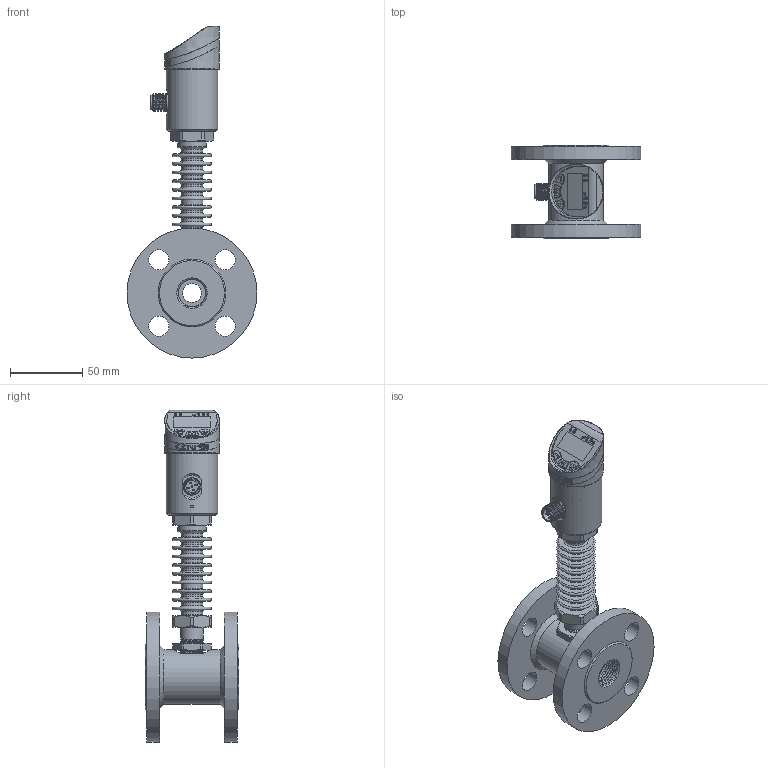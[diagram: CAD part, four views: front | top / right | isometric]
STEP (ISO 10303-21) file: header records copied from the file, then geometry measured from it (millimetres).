
FILE_DESCRIPTION( (''), '2;1');
FILE_NAME( 'QTKE_DN12_flange_high-temp.step', '2024-10-14T15:27:10+08:00', (''), (''), '', '', '');
FILE_SCHEMA (('AUTOMOTIVE_DESIGN { 1 0 10303 214 3 1 1 1 }'));
Length unit declared in the file: millimetre
Products named in the file (1): QTKE DN12_flange_high-temp
Bounding box: 90 x 65 x 230 mm (x, y, z)
Volume: 184514 mm3; surface area: 83049.4 mm2
Topology: 5 solids, 5 shells, 1010 faces, 2579 edges, 1676 vertices
Faces by surface type: plane 409, cylinder 182, extrusion 160, cone 115, bspline 63, torus 60, sphere 21
Full cylindrical faces by diameter (mm): 1.689 x1, 2 x1, 2.7 x6, 3.5 x5, 12 x1, 13 x2, 14 x8, 15 x10, 15.9 x1, 17 x1, 20 x1, 21 x2, 23 x3, 26 x5, 31.7 x1, 32 x1, 34 x1, 34.2 x1, 35.5 x2, 38 x1, 90 x2
Entity records: 48008 total; most frequent: CARTESIAN_POINT 20846, ORIENTED_EDGE 4742, DIRECTION 4163, EDGE_CURVE 2371, VERTEX_POINT 1615, AXIS2_PLACEMENT_3D 1498, EDGE_LOOP 1280, VECTOR 1167
